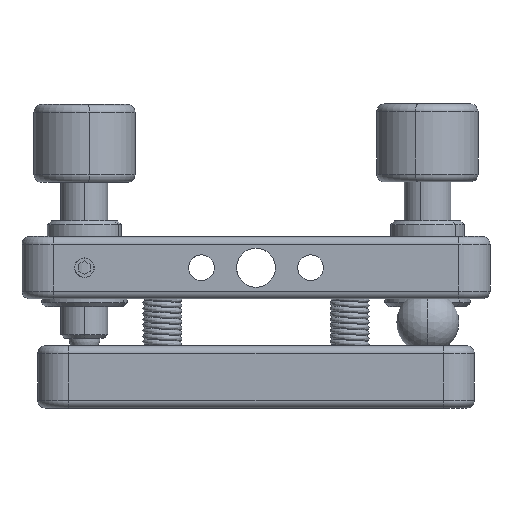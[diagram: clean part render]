
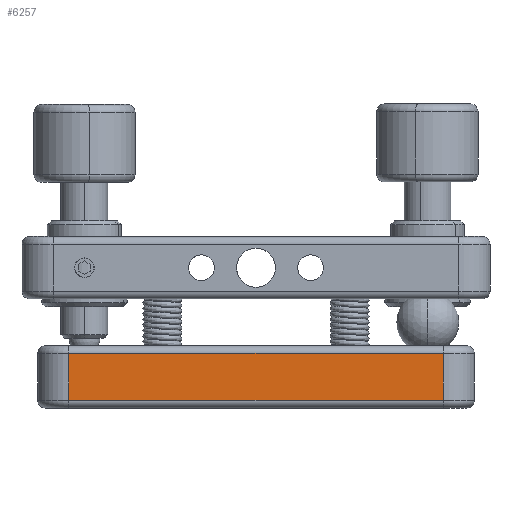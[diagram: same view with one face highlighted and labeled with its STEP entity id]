
A CAD part, left-side view. The second image highlights one B-rep face of the part: STEP entity #6257.
In plain terms, the highlighted planar face has unit normal (-1, 0, 0).
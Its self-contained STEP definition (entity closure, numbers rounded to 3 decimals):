
#584 = VERTEX_POINT ( 'NONE', #4722 ) ;
#922 = EDGE_LOOP ( 'NONE', ( #3507, #6660, #11373, #6457 ) ) ;
#1991 = CARTESIAN_POINT ( 'NONE',  ( -28., 28., -11. ) ) ;
#2112 = CARTESIAN_POINT ( 'NONE',  ( -28., -24., -10. ) ) ;
#2882 = VERTEX_POINT ( 'NONE', #12649 ) ;
#3507 = ORIENTED_EDGE ( 'NONE', *, *, #18010, .T. ) ;
#3531 = CARTESIAN_POINT ( 'NONE',  ( -28., 24., -11. ) ) ;
#3975 = VECTOR ( 'NONE', #4956, 1000. ) ;
#4245 = LINE ( 'NONE', #1991, #8745 ) ;
#4676 = LINE ( 'NONE', #2112, #3975 ) ;
#4722 = CARTESIAN_POINT ( 'NONE',  ( -28., -24., -11. ) ) ;
#4956 = DIRECTION ( 'NONE',  ( 0., 0., 1. ) ) ;
#5535 = VECTOR ( 'NONE', #17242, 1000. ) ;
#5802 = LINE ( 'NONE', #15746, #5535 ) ;
#5861 = CARTESIAN_POINT ( 'NONE',  ( -28., 24., -17. ) ) ;
#6257 = ADVANCED_FACE ( 'NONE', ( #18087 ), #7597, .F. ) ;
#6457 = ORIENTED_EDGE ( 'NONE', *, *, #17649, .T. ) ;
#6660 = ORIENTED_EDGE ( 'NONE', *, *, #17352, .T. ) ;
#6801 = DIRECTION ( 'NONE',  ( 0., 0., -1. ) ) ;
#7453 = DIRECTION ( 'NONE',  ( 0., 0., 1. ) ) ;
#7510 = DIRECTION ( 'NONE',  ( 1., 0., 0. ) ) ;
#7597 = PLANE ( 'NONE',  #15796 ) ;
#8340 = CARTESIAN_POINT ( 'NONE',  ( -28., 28., -10. ) ) ;
#8745 = VECTOR ( 'NONE', #13430, 1000. ) ;
#9753 = VERTEX_POINT ( 'NONE', #3531 ) ;
#11373 = ORIENTED_EDGE ( 'NONE', *, *, #17766, .T. ) ;
#12649 = CARTESIAN_POINT ( 'NONE',  ( -28., -24., -17. ) ) ;
#13430 = DIRECTION ( 'NONE',  ( 0., 1., 0. ) ) ;
#14988 = VERTEX_POINT ( 'NONE', #5861 ) ;
#15746 = CARTESIAN_POINT ( 'NONE',  ( -28., -24., -17. ) ) ;
#15796 = AXIS2_PLACEMENT_3D ( 'NONE', #8340, #7510, #7453 ) ;
#16571 = VECTOR ( 'NONE', #6801, 1000. ) ;
#17045 = LINE ( 'NONE', #18248, #16571 ) ;
#17242 = DIRECTION ( 'NONE',  ( 0., -1., 0. ) ) ;
#17352 = EDGE_CURVE ( 'NONE', #14988, #2882, #5802, .T. ) ;
#17649 = EDGE_CURVE ( 'NONE', #584, #9753, #4245, .T. ) ;
#17766 = EDGE_CURVE ( 'NONE', #2882, #584, #4676, .T. ) ;
#18010 = EDGE_CURVE ( 'NONE', #9753, #14988, #17045, .T. ) ;
#18087 = FACE_OUTER_BOUND ( 'NONE', #922, .T. ) ;
#18248 = CARTESIAN_POINT ( 'NONE',  ( -28., 24., -10. ) ) ;
